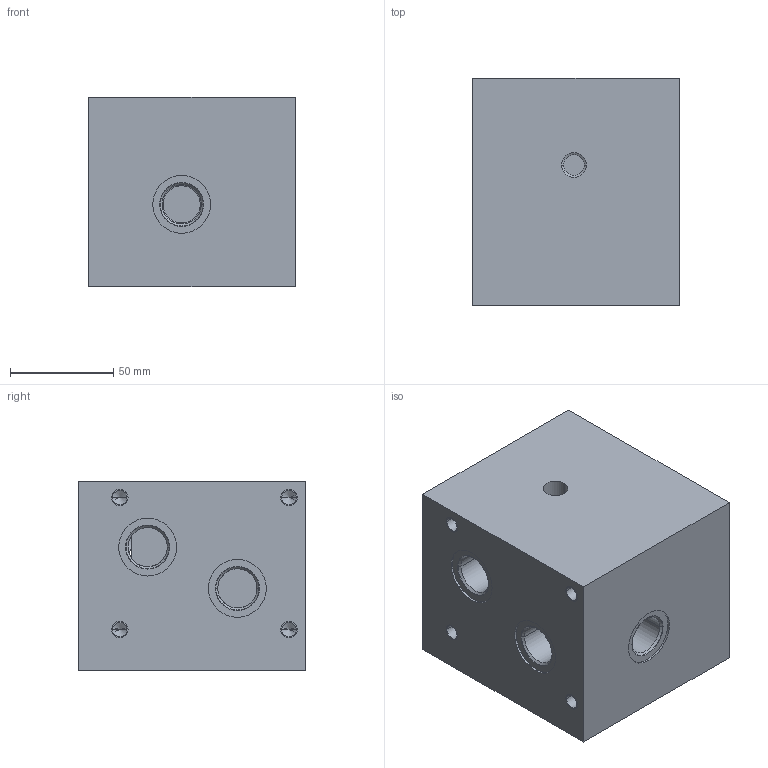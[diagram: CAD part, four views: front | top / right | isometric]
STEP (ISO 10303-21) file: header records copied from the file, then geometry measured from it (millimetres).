
FILE_DESCRIPTION((''),'2;1');
FILE_NAME('760_1100','2023-11-15T',('l.soukupova'),(''),'PRO/ENGINEER BY PARAMETRIC TECHNOLOGY CORPORATION, 2015440','PRO/ENGINEER BY PARAMETRIC TECHNOLOGY CORPORATION, 2015440','');
FILE_SCHEMA(('AUTOMOTIVE_DESIGN { 1 0 10303 214 1 1 1 1 }'));
Length unit declared in the file: millimetre
Products named in the file (1): 760_1100
Bounding box: 100 x 110 x 92 mm (x, y, z)
Volume: 932050.1 mm3; surface area: 89300.4 mm2
Topology: 1 solids, 15 shells, 168 faces, 474 edges, 370 vertices
Faces by surface type: cylinder 84, cone 45, plane 39
Entity records: 5868 total; most frequent: CARTESIAN_POINT 1111, DIRECTION 1018, ORIENTED_EDGE 710, AXIS2_PLACEMENT_3D 396, EDGE_CURVE 383, VERTEX_POINT 249, VECTOR 226, LINE 226
